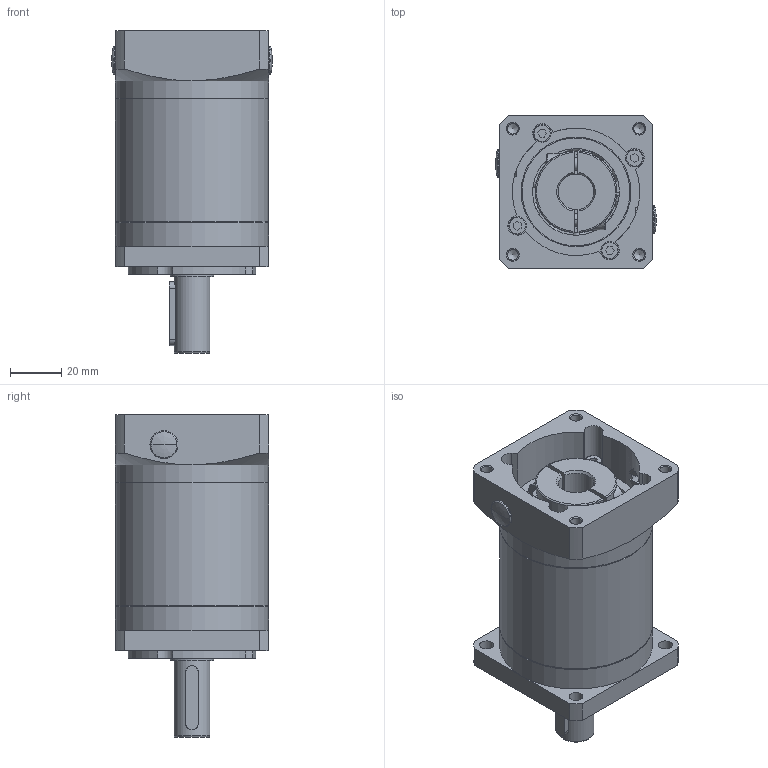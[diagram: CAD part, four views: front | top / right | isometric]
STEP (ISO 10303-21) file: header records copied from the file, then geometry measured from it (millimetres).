
FILE_DESCRIPTION(/* description */ (''),/* implementation_level */ '2;1');
FILE_NAME(/* name */ 'PF-060-L2（14-50-70-M5)(输出轴Φ14).stp',/* time_stamp */ '2021-11-22T17:05:38+08:00',/* author */ (''),/* organization */ (''),/* preprocessor_version */ 'ST-DEVELOPER v16',/* originating_system */ 'SIEMENS PLM Software NX 10.0',/* authorisation */ '');
FILE_SCHEMA (('AP203_CONFIGURATION_CONTROLLED_3D_DESIGN_OF_MECHANICAL_PARTS_AND_ASSEMBLIES_MIM_LF { 1 0 10303 403 2 1 2}'));
Length unit declared in the file: millimetre
Products named in the file (1): 1D045F70vn2y
Bounding box: 63 x 60 x 126.4 mm (x, y, z)
Volume: 177157 mm3; surface area: 85259.6 mm2
Topology: 22 solids, 22 shells, 2152 faces, 6308 edges, 4210 vertices
Faces by surface type: extrusion 864, cylinder 665, plane 269, sphere 160, torus 112, cone 60, bspline 22
Full cylindrical faces by diameter (mm): 3.3 x8, 4.2 x7, 4.5 x8, 5.5 x6, 7.5 x4, 8 x2, 14 x2, 15 x1, 16.2 x1, 17 x2, 20 x1, 25 x1, 29 x1, 35 x2, 37 x1, 43 x1, 45.9 x1, 47 x4, 60 x3
Entity records: 186884 total; most frequent: CARTESIAN_POINT 132973, ORIENTED_EDGE 12260, DIRECTION 9165, EDGE_CURVE 6130, VERTEX_POINT 4142, AXIS2_PLACEMENT_3D 3232, B_SPLINE_CURVE_WITH_KNOTS 3226, VECTOR 2701
